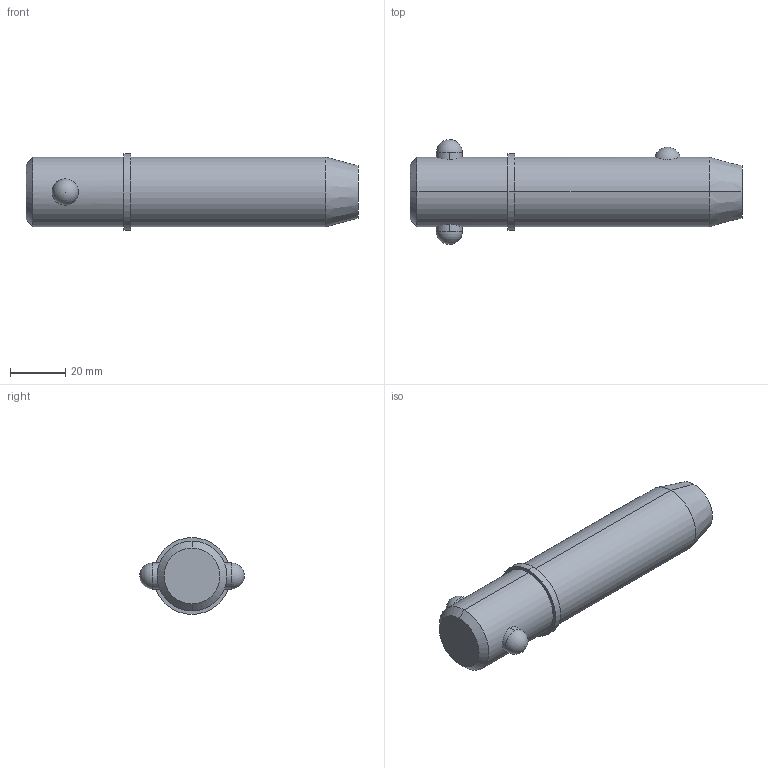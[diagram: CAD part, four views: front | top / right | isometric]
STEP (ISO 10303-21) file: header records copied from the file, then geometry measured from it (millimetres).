
FILE_DESCRIPTION (( 'STEP AP203' ), '1' );
FILE_NAME ('33018.W1020.step', '2024-11-19T17:24:01', ( '' ), ( '' ), 'SwSTEP 2.0', 'SolidWorks 2019', '' );
FILE_SCHEMA (( 'CONFIG_CONTROL_DESIGN' ));
Length unit declared in the file: millimetre
Products named in the file (3): Part1_33018.W1020; 33018.W1020; Part2_33018.W1020
Assembly tree (2 placements, depth 2):
  33018.W1020
    Part1_33018.W1020
    Part2_33018.W1020
Bounding box: 120.65 x 38.1 x 27.94 mm (x, y, z)
Volume: 60659.7 mm3; surface area: 12212.7 mm2
Topology: 2 solids, 2 shells, 22 faces, 47 edges, 30 vertices
Faces by surface type: cylinder 10, sphere 4, cone 4, plane 4
Entity records: 1071 total; most frequent: CARTESIAN_POINT 314, DIRECTION 110, ORIENTED_EDGE 82, AXIS2_PLACEMENT_3D 48, EDGE_CURVE 41, EDGE_LOOP 27, VERTEX_POINT 26, PERSON_AND_ORGANIZATION 26
